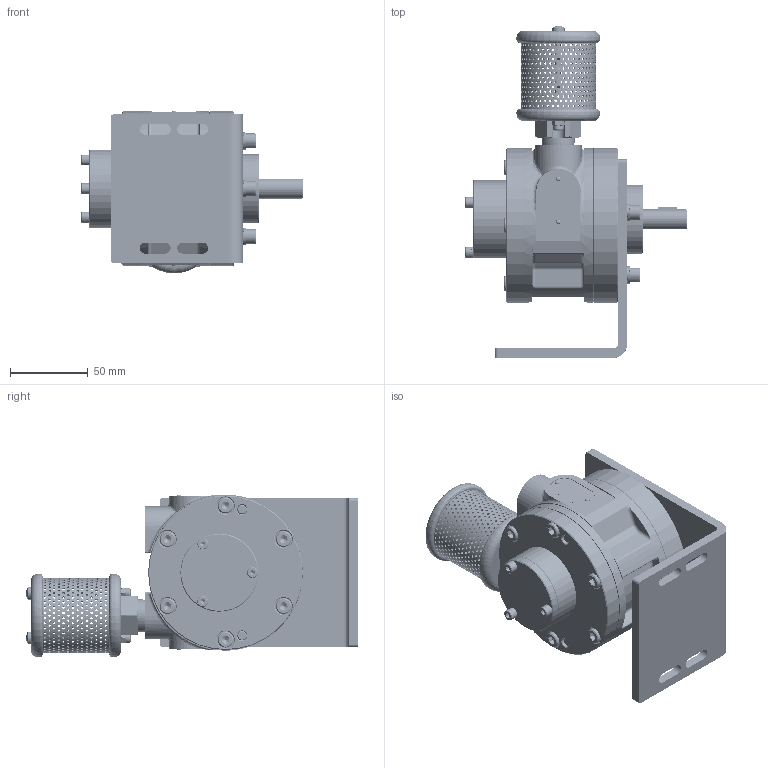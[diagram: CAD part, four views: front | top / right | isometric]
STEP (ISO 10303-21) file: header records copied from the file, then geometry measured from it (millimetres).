
FILE_DESCRIPTION (( 'STEP AP214' ), '1' );
FILE_NAME ('4VMS-Foot (Alu. End Plates)_23-04-26.STEP', '2026-04-23T11:51:52', ( '' ), ( '' ), 'SwSTEP 2.0', 'SolidWorks 2017', '' );
FILE_SCHEMA (( 'AUTOMOTIVE_DESIGN' ));
Length unit declared in the file: millimetre
Products named in the file (2): 4VMS-Foot (Alu. End Plates)_23-04-26
Bounding box: 142.45 x 212.85 x 104.25 mm (x, y, z)
Volume: 383812.6 mm3; surface area: 195376.9 mm2
Topology: 68 solids, 68 shells, 4554 faces, 12280 edges, 7795 vertices
Faces by surface type: cylinder 2490, cone 1038, plane 729, torus 214, bspline 58, sphere 25
Entity records: 203946 total; most frequent: CARTESIAN_POINT 79608, ORIENTED_EDGE 24336, DIRECTION 20957, EDGE_CURVE 12168, AXIS2_PLACEMENT_3D 8271, VERTEX_POINT 7793, EDGE_LOOP 6169, FACE_OUTER_BOUND 4554
